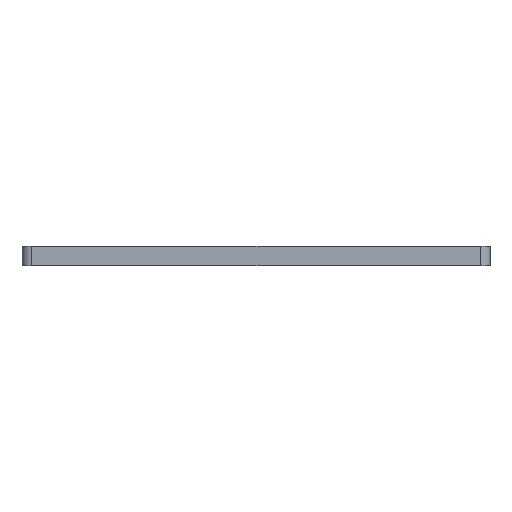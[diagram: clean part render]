
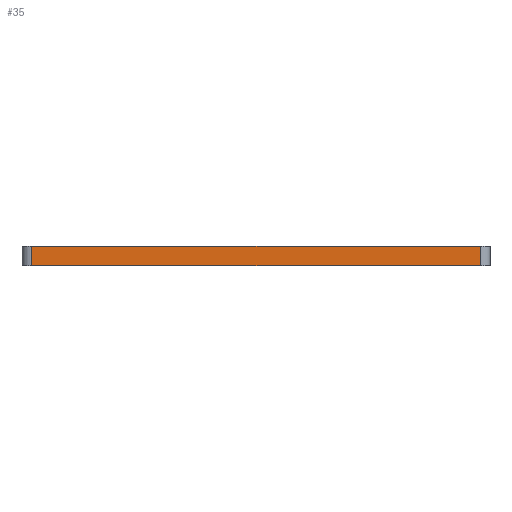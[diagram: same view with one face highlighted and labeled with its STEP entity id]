
A CAD part, left-side view. The second image highlights one B-rep face of the part: STEP entity #35.
In plain terms, the highlighted planar face has unit normal (-1, 0, 0).
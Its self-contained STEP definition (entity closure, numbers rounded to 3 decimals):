
#35 = ADVANCED_FACE('',(#36),#50,.T.);
#36 = FACE_BOUND('',#37,.T.);
#37 = EDGE_LOOP('',(#38,#73,#101,#129));
#38 = ORIENTED_EDGE('',*,*,#39,.T.);
#39 = EDGE_CURVE('',#40,#42,#44,.T.);
#40 = VERTEX_POINT('',#41);
#41 = CARTESIAN_POINT('',(-117.,-92.,0.));
#42 = VERTEX_POINT('',#43);
#43 = CARTESIAN_POINT('',(-117.,-92.,8.2));
#44 = SURFACE_CURVE('',#45,(#49,#61),.PCURVE_S1.);
#45 = LINE('',#46,#47);
#46 = CARTESIAN_POINT('',(-117.,-92.,0.));
#47 = VECTOR('',#48,1.);
#48 = DIRECTION('',(0.,0.,1.));
#49 = PCURVE('',#50,#55);
#50 = PLANE('',#51);
#51 = AXIS2_PLACEMENT_3D('',#52,#53,#54);
#52 = CARTESIAN_POINT('',(-117.,-92.,0.));
#53 = DIRECTION('',(-1.,0.,0.));
#54 = DIRECTION('',(0.,1.,0.));
#55 = DEFINITIONAL_REPRESENTATION('',(#56),#60);
#56 = LINE('',#57,#58);
#57 = CARTESIAN_POINT('',(0.,0.));
#58 = VECTOR('',#59,1.);
#59 = DIRECTION('',(0.,-1.));
#60 = ( GEOMETRIC_REPRESENTATION_CONTEXT(2) 
PARAMETRIC_REPRESENTATION_CONTEXT() REPRESENTATION_CONTEXT('2D SPACE',''
  ) );
#61 = PCURVE('',#62,#67);
#62 = CYLINDRICAL_SURFACE('',#63,4.);
#63 = AXIS2_PLACEMENT_3D('',#64,#65,#66);
#64 = CARTESIAN_POINT('',(-113.,-92.,0.));
#65 = DIRECTION('',(-0.,-0.,-1.));
#66 = DIRECTION('',(1.,0.,0.));
#67 = DEFINITIONAL_REPRESENTATION('',(#68),#72);
#68 = LINE('',#69,#70);
#69 = CARTESIAN_POINT('',(-3.142,0.));
#70 = VECTOR('',#71,1.);
#71 = DIRECTION('',(-0.,-1.));
#72 = ( GEOMETRIC_REPRESENTATION_CONTEXT(2) 
PARAMETRIC_REPRESENTATION_CONTEXT() REPRESENTATION_CONTEXT('2D SPACE',''
  ) );
#73 = ORIENTED_EDGE('',*,*,#74,.T.);
#74 = EDGE_CURVE('',#42,#75,#77,.T.);
#75 = VERTEX_POINT('',#76);
#76 = CARTESIAN_POINT('',(-117.,92.,8.2));
#77 = SURFACE_CURVE('',#78,(#82,#89),.PCURVE_S1.);
#78 = LINE('',#79,#80);
#79 = CARTESIAN_POINT('',(-117.,0.,8.2));
#80 = VECTOR('',#81,1.);
#81 = DIRECTION('',(0.,1.,0.));
#82 = PCURVE('',#50,#83);
#83 = DEFINITIONAL_REPRESENTATION('',(#84),#88);
#84 = LINE('',#85,#86);
#85 = CARTESIAN_POINT('',(92.,-8.2));
#86 = VECTOR('',#87,1.);
#87 = DIRECTION('',(1.,0.));
#88 = ( GEOMETRIC_REPRESENTATION_CONTEXT(2) 
PARAMETRIC_REPRESENTATION_CONTEXT() REPRESENTATION_CONTEXT('2D SPACE',''
  ) );
#89 = PCURVE('',#90,#95);
#90 = PLANE('',#91);
#91 = AXIS2_PLACEMENT_3D('',#92,#93,#94);
#92 = CARTESIAN_POINT('',(0.,0.,8.2));
#93 = DIRECTION('',(0.,0.,1.));
#94 = DIRECTION('',(1.,0.,-0.));
#95 = DEFINITIONAL_REPRESENTATION('',(#96),#100);
#96 = LINE('',#97,#98);
#97 = CARTESIAN_POINT('',(-117.,0.));
#98 = VECTOR('',#99,1.);
#99 = DIRECTION('',(0.,1.));
#100 = ( GEOMETRIC_REPRESENTATION_CONTEXT(2) 
PARAMETRIC_REPRESENTATION_CONTEXT() REPRESENTATION_CONTEXT('2D SPACE',''
  ) );
#101 = ORIENTED_EDGE('',*,*,#102,.F.);
#102 = EDGE_CURVE('',#103,#75,#105,.T.);
#103 = VERTEX_POINT('',#104);
#104 = CARTESIAN_POINT('',(-117.,92.,0.));
#105 = SURFACE_CURVE('',#106,(#110,#117),.PCURVE_S1.);
#106 = LINE('',#107,#108);
#107 = CARTESIAN_POINT('',(-117.,92.,0.));
#108 = VECTOR('',#109,1.);
#109 = DIRECTION('',(0.,0.,1.));
#110 = PCURVE('',#50,#111);
#111 = DEFINITIONAL_REPRESENTATION('',(#112),#116);
#112 = LINE('',#113,#114);
#113 = CARTESIAN_POINT('',(184.,0.));
#114 = VECTOR('',#115,1.);
#115 = DIRECTION('',(0.,-1.));
#116 = ( GEOMETRIC_REPRESENTATION_CONTEXT(2) 
PARAMETRIC_REPRESENTATION_CONTEXT() REPRESENTATION_CONTEXT('2D SPACE',''
  ) );
#117 = PCURVE('',#118,#123);
#118 = CYLINDRICAL_SURFACE('',#119,4.);
#119 = AXIS2_PLACEMENT_3D('',#120,#121,#122);
#120 = CARTESIAN_POINT('',(-113.,92.,0.));
#121 = DIRECTION('',(-0.,-0.,-1.));
#122 = DIRECTION('',(1.,0.,0.));
#123 = DEFINITIONAL_REPRESENTATION('',(#124),#128);
#124 = LINE('',#125,#126);
#125 = CARTESIAN_POINT('',(-3.142,0.));
#126 = VECTOR('',#127,1.);
#127 = DIRECTION('',(-0.,-1.));
#128 = ( GEOMETRIC_REPRESENTATION_CONTEXT(2) 
PARAMETRIC_REPRESENTATION_CONTEXT() REPRESENTATION_CONTEXT('2D SPACE',''
  ) );
#129 = ORIENTED_EDGE('',*,*,#130,.F.);
#130 = EDGE_CURVE('',#40,#103,#131,.T.);
#131 = SURFACE_CURVE('',#132,(#136,#143),.PCURVE_S1.);
#132 = LINE('',#133,#134);
#133 = CARTESIAN_POINT('',(-117.,0.,0.));
#134 = VECTOR('',#135,1.);
#135 = DIRECTION('',(0.,1.,0.));
#136 = PCURVE('',#50,#137);
#137 = DEFINITIONAL_REPRESENTATION('',(#138),#142);
#138 = LINE('',#139,#140);
#139 = CARTESIAN_POINT('',(92.,0.));
#140 = VECTOR('',#141,1.);
#141 = DIRECTION('',(1.,0.));
#142 = ( GEOMETRIC_REPRESENTATION_CONTEXT(2) 
PARAMETRIC_REPRESENTATION_CONTEXT() REPRESENTATION_CONTEXT('2D SPACE',''
  ) );
#143 = PCURVE('',#144,#149);
#144 = PLANE('',#145);
#145 = AXIS2_PLACEMENT_3D('',#146,#147,#148);
#146 = CARTESIAN_POINT('',(0.,0.,0.));
#147 = DIRECTION('',(0.,0.,1.));
#148 = DIRECTION('',(1.,0.,-0.));
#149 = DEFINITIONAL_REPRESENTATION('',(#150),#154);
#150 = LINE('',#151,#152);
#151 = CARTESIAN_POINT('',(-117.,0.));
#152 = VECTOR('',#153,1.);
#153 = DIRECTION('',(0.,1.));
#154 = ( GEOMETRIC_REPRESENTATION_CONTEXT(2) 
PARAMETRIC_REPRESENTATION_CONTEXT() REPRESENTATION_CONTEXT('2D SPACE',''
  ) );
